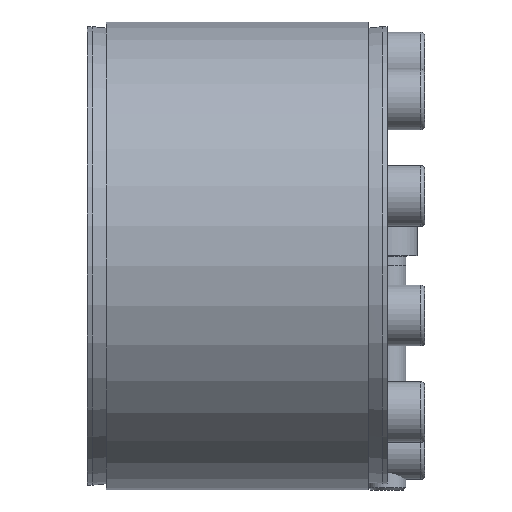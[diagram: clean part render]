
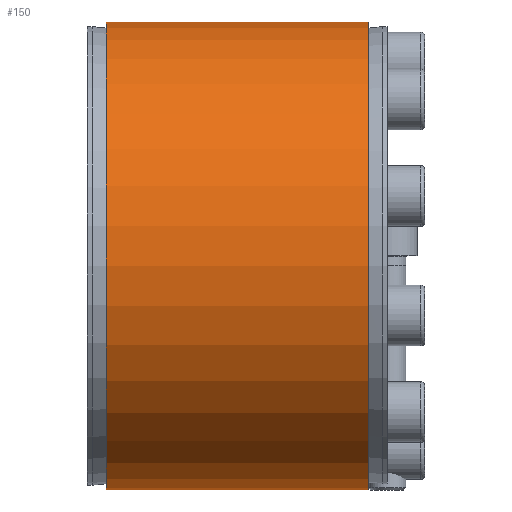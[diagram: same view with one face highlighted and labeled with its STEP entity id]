
A CAD part, left-side view. The second image highlights one B-rep face of the part: STEP entity #150.
In plain terms, the highlighted cylindrical face has radius 50 mm (diameter 100 mm), a partial arc.
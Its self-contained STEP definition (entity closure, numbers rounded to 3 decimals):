
#150 = ADVANCED_FACE( '', ( #362 ), #363, .T. );
#362 = FACE_OUTER_BOUND( '', #636, .T. );
#363 = CYLINDRICAL_SURFACE( '', #637, 50. );
#636 = EDGE_LOOP( '', ( #1048, #1049, #1050, #1051 ) );
#637 = AXIS2_PLACEMENT_3D( '', #1052, #1053, #1054 );
#1048 = ORIENTED_EDGE( '', *, *, #1370, .F. );
#1049 = ORIENTED_EDGE( '', *, *, #1414, .T. );
#1050 = ORIENTED_EDGE( '', *, *, #1395, .F. );
#1051 = ORIENTED_EDGE( '', *, *, #1385, .F. );
#1052 = CARTESIAN_POINT( '', ( 0., -60., 0. ) );
#1053 = DIRECTION( '', ( 0., 1., 0. ) );
#1054 = DIRECTION( '', ( 0., 0., -1. ) );
#1370 = EDGE_CURVE( '', #1659, #1661, #1662, .T. );
#1385 = EDGE_CURVE( '', #1661, #1683, #1684, .T. );
#1395 = EDGE_CURVE( '', #1683, #1696, #1697, .F. );
#1414 = EDGE_CURVE( '', #1659, #1696, #1725, .T. );
#1659 = VERTEX_POINT( '', #2093 );
#1661 = VERTEX_POINT( '', #2096 );
#1662 = LINE( '', #2097, #2098 );
#1683 = VERTEX_POINT( '', #2122 );
#1684 = CIRCLE( '', #2123, 50. );
#1696 = VERTEX_POINT( '', #2137 );
#1697 = LINE( '', #2138, #2139 );
#1725 = CIRCLE( '', #2182, 50. );
#2093 = CARTESIAN_POINT( '', ( 14.353, 60., 47.896 ) );
#2096 = CARTESIAN_POINT( '', ( 14.353, 4., 47.896 ) );
#2097 = CARTESIAN_POINT( '', ( 14.353, -60., 47.896 ) );
#2098 = VECTOR( '', #2425, 1000. );
#2122 = CARTESIAN_POINT( '', ( 16.54, 4., 47.185 ) );
#2123 = AXIS2_PLACEMENT_3D( '', #2447, #2448, #2449 );
#2137 = CARTESIAN_POINT( '', ( 16.54, 60., 47.185 ) );
#2138 = CARTESIAN_POINT( '', ( 16.54, -60., 47.185 ) );
#2139 = VECTOR( '', #2458, 1000. );
#2182 = AXIS2_PLACEMENT_3D( '', #2477, #2478, #2479 );
#2425 = DIRECTION( '', ( 0., -1., 0. ) );
#2447 = CARTESIAN_POINT( '', ( 0., 4., 0. ) );
#2448 = DIRECTION( '', ( 0., -1., 0. ) );
#2449 = DIRECTION( '', ( 0., 0., -1. ) );
#2458 = DIRECTION( '', ( 0., -1., 0. ) );
#2477 = CARTESIAN_POINT( '', ( 0., 60., 0. ) );
#2478 = DIRECTION( '', ( 0., -1., 0. ) );
#2479 = DIRECTION( '', ( 0., 0., -1. ) );
